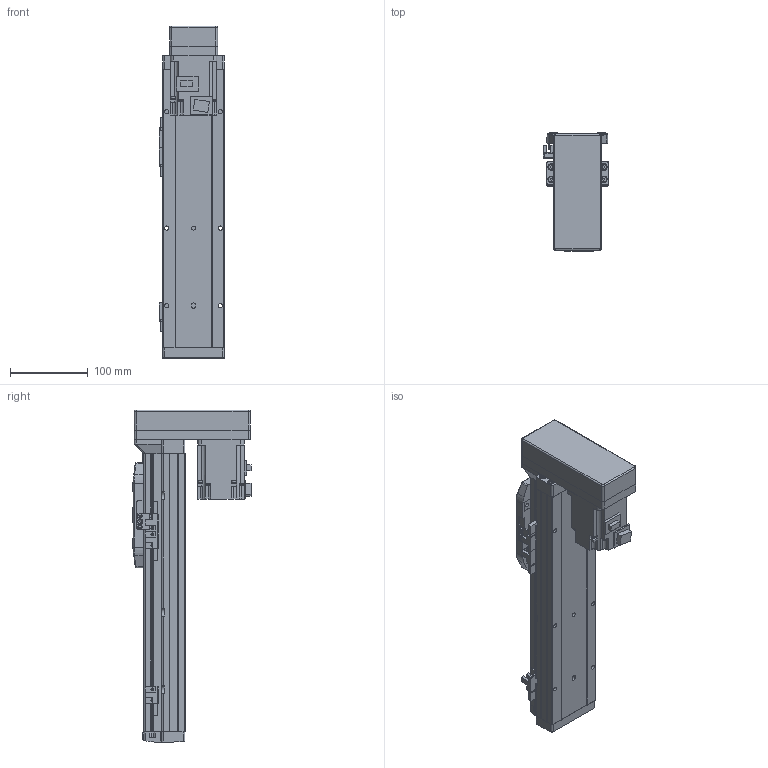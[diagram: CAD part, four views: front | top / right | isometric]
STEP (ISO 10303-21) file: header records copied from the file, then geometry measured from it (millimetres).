
FILE_DESCRIPTION (( 'STEP AP214' ), '1' );
FILE_NAME ('GSH8-200-BM-M20-1.step', '2025-01-07T06:07:49', ( '' ), ( '' ), 'SwSTEP 2.0', 'SolidWorks 2012', '' );
FILE_SCHEMA (( 'AUTOMOTIVE_DESIGN' ));
Length unit declared in the file: millimetre
Products named in the file (5): GSH8-GY-004; GSH8-BL-011-200-M20; HG-KR23_200W_Motor; GSH8-200-BM-M20-1; GSH8-BL-008
Assembly tree (4 placements, depth 2):
  GSH8-200-BM-M20-1
    GSH8-BL-011-200-M20
    GSH8-GY-004
    GSH8-BL-008
    HG-KR23_200W_Motor
Bounding box: 84 x 152.3 x 428.2 mm (x, y, z)
Volume: 1474627.8 mm3; surface area: 320682.6 mm2
Topology: 4 solids, 8 shells, 1088 faces, 2837 edges, 1822 vertices
Faces by surface type: plane 624, cylinder 368, torus 42, cone 26, bspline 24, sphere 4
Entity records: 42739 total; most frequent: CARTESIAN_POINT 9696, DIRECTION 5753, ORIENTED_EDGE 5658, EDGE_CURVE 2829, AXIS2_PLACEMENT_3D 1931, LINE 1891, VECTOR 1891, VERTEX_POINT 1818
